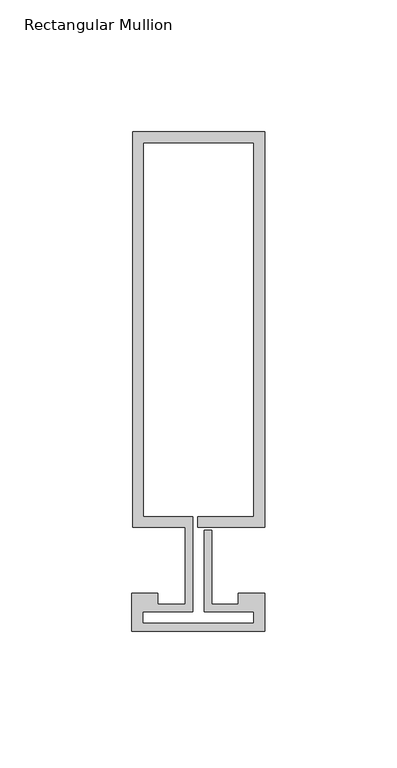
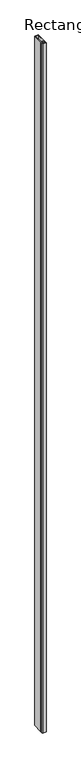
"""IFC4 building model written with IfcOpenShell, lengths in millimetres: member geometry, Rectangular Mullion : Reynaers_CW-50_Mullion-Transom_Vertical_149.8mm_Facecap-02A."""

from ifc_helpers import new_model, si_unit, frame, origin, place, context, project, spatial, polyline, outline, extrude, source, transform, mapped, element, save


def rectangular_mullion_d0eb4cb8(model_context):
    return source(origin(), model_context, "Body", "SweptSolid", [
        extrude(outline(polyline([(-24.8004059, 162.3), (25.1995941, 162.3), (25.1995941, 12.5), (0.0, 12.5), (0.0, 16.5), (21.1995941, 16.5), (21.1995941, 158.3), (-20.8004059, 158.3), (-20.8004059, 16.5), (-1.9004059, 16.5), (-1.9004059, -19.5), (-20.994845, -19.5), (-20.994845, -23.7191338), (21.1995941, -23.7191338), (21.1995941, -19.5), (2.2995941, -19.5), (2.2995941, 11.5), (5.2995941, 11.5), (5.2995941, -16.5), (15.2996495, -16.5), (15.2996495, -12.5), (25.1995941, -12.5), (25.1995941, -26.8), (-24.994845, -26.8), (-24.994845, -12.5), (-15.2996495, -12.5), (-15.2996495, -16.5), (-4.9004059, -16.5), (-4.9004059, 12.5), (-24.8004059, 12.5), (-24.8004059, 162.3)])), frame((0.0, 0.0, -10400.0), z_axis=(0.0, 0.0, 1.0), x_axis=(1.0, 0.0, 0.0)), (0.0, 0.0, 1.0), 10400.0),
    ])


if __name__ == "__main__":
    model = new_model("IFC4")
    model_context = context("Model", 3, world=origin())
    ifc_project = project(units=[si_unit("LENGTHUNIT", "METRE", prefix="MILLI")], contexts=[model_context])
    site = spatial("IfcSite", under=ifc_project)
    building = spatial("IfcBuilding", under=site)
    placement = place(None, origin())
    rectangular_mullion_shape = rectangular_mullion_d0eb4cb8(model_context)
    element("IfcMember", 1, ObjectType="Rectangular Mullion : Reynaers_CW-50_Mullion-Transom_Vertical_149.8mm_Facecap-02A", at=placement, inside=building, context=model_context, shape_type="MappedRepresentation", body=[
        mapped(rectangular_mullion_shape, transform((0.0, 0.0, 0.0), x_axis=(1.0, 0.0, 0.0), y_axis=(0.0, 1.0, 0.0), z_axis=(0.0, 0.0, 1.0))),
    ])
    save(model, "model.ifc")
